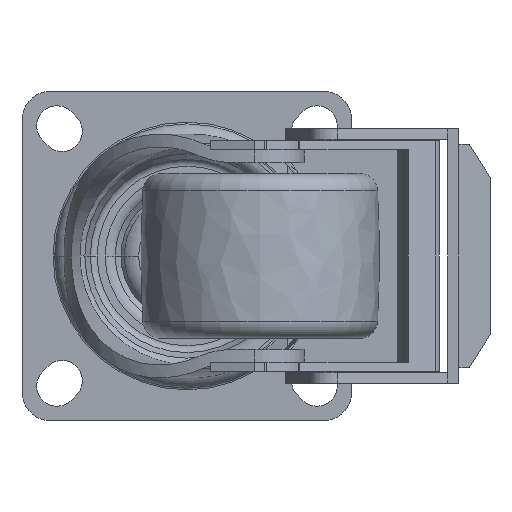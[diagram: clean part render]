
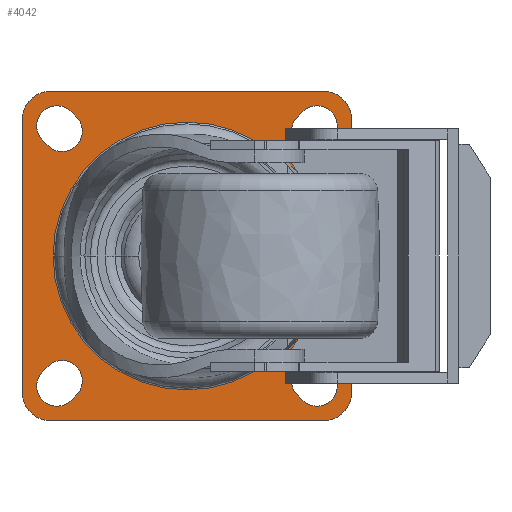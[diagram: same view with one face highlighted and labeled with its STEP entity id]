
A CAD part, front view. The second image highlights one B-rep face of the part: STEP entity #4042.
In plain terms, the highlighted planar face has unit normal (0, -1, 0).
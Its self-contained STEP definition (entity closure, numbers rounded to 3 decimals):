
#3217=DIRECTION('',(0.,0.,-1.));
#3218=VECTOR('',#3217,74.);
#3219=CARTESIAN_POINT('',(-45.,-3.5,37.));
#3220=LINE('',#3219,#3218);
#3221=CARTESIAN_POINT('',(-37.,-3.5,37.));
#3222=DIRECTION('',(0.,-1.,0.));
#3223=DIRECTION('',(0.,0.,1.));
#3224=AXIS2_PLACEMENT_3D('',#3221,#3222,#3223);
#3226=DIRECTION('',(-1.,0.,0.));
#3227=VECTOR('',#3226,74.);
#3228=CARTESIAN_POINT('',(37.,-3.5,45.));
#3229=LINE('',#3228,#3227);
#3230=CARTESIAN_POINT('',(37.,-3.5,37.));
#3231=DIRECTION('',(0.,-1.,0.));
#3232=DIRECTION('',(1.,0.,0.));
#3233=AXIS2_PLACEMENT_3D('',#3230,#3231,#3232);
#3235=DIRECTION('',(0.,0.,1.));
#3236=VECTOR('',#3235,74.);
#3237=CARTESIAN_POINT('',(45.,-3.5,-37.));
#3238=LINE('',#3237,#3236);
#3239=CARTESIAN_POINT('',(37.,-3.5,-37.));
#3240=DIRECTION('',(0.,-1.,0.));
#3241=DIRECTION('',(0.,0.,-1.));
#3242=AXIS2_PLACEMENT_3D('',#3239,#3240,#3241);
#3244=DIRECTION('',(1.,0.,0.));
#3245=VECTOR('',#3244,74.);
#3246=CARTESIAN_POINT('',(-37.,-3.5,-45.));
#3247=LINE('',#3246,#3245);
#3248=CARTESIAN_POINT('',(-37.,-3.5,-37.));
#3249=DIRECTION('',(0.,-1.,0.));
#3250=DIRECTION('',(-1.,0.,0.));
#3251=AXIS2_PLACEMENT_3D('',#3248,#3249,#3250);
#3253=CARTESIAN_POINT('',(-35.5,-3.5,-35.5));
#3254=DIRECTION('',(0.,-1.,0.));
#3255=DIRECTION('',(-0.707,0.,0.707));
#3256=AXIS2_PLACEMENT_3D('',#3253,#3254,#3255);
#3258=DIRECTION('',(-0.707,0.,-0.707));
#3259=VECTOR('',#3258,2.121);
#3260=CARTESIAN_POINT('',(-30.111,-3.5,-37.889));
#3261=LINE('',#3260,#3259);
#3262=CARTESIAN_POINT('',(-34.,-3.5,-34.));
#3263=DIRECTION('',(0.,-1.,0.));
#3264=DIRECTION('',(0.707,0.,-0.707));
#3265=AXIS2_PLACEMENT_3D('',#3262,#3263,#3264);
#3267=DIRECTION('',(0.707,0.,0.707));
#3268=VECTOR('',#3267,2.121);
#3269=CARTESIAN_POINT('',(-39.389,-3.5,-31.611));
#3270=LINE('',#3269,#3268);
#3271=DIRECTION('',(0.707,0.,-0.707));
#3272=VECTOR('',#3271,2.121);
#3273=CARTESIAN_POINT('',(37.889,-3.5,-30.111));
#3274=LINE('',#3273,#3272);
#3275=CARTESIAN_POINT('',(34.,-3.5,-34.));
#3276=DIRECTION('',(0.,-1.,0.));
#3277=DIRECTION('',(0.707,0.,0.707));
#3278=AXIS2_PLACEMENT_3D('',#3275,#3276,#3277);
#3280=DIRECTION('',(-0.707,0.,0.707));
#3281=VECTOR('',#3280,2.121);
#3282=CARTESIAN_POINT('',(31.611,-3.5,-39.389));
#3283=LINE('',#3282,#3281);
#3284=CARTESIAN_POINT('',(35.5,-3.5,-35.5));
#3285=DIRECTION('',(0.,-1.,0.));
#3286=DIRECTION('',(-0.707,0.,-0.707));
#3287=AXIS2_PLACEMENT_3D('',#3284,#3285,#3286);
#3289=CARTESIAN_POINT('',(35.5,-3.5,35.5));
#3290=DIRECTION('',(0.,-1.,0.));
#3291=DIRECTION('',(0.707,0.,-0.707));
#3292=AXIS2_PLACEMENT_3D('',#3289,#3290,#3291);
#3294=DIRECTION('',(0.707,0.,0.707));
#3295=VECTOR('',#3294,2.121);
#3296=CARTESIAN_POINT('',(30.111,-3.5,37.889));
#3297=LINE('',#3296,#3295);
#3298=CARTESIAN_POINT('',(34.,-3.5,34.));
#3299=DIRECTION('',(0.,-1.,0.));
#3300=DIRECTION('',(-0.707,0.,0.707));
#3301=AXIS2_PLACEMENT_3D('',#3298,#3299,#3300);
#3303=DIRECTION('',(-0.707,0.,-0.707));
#3304=VECTOR('',#3303,2.121);
#3305=CARTESIAN_POINT('',(39.389,-3.5,31.611));
#3306=LINE('',#3305,#3304);
#3307=DIRECTION('',(-0.707,0.,0.707));
#3308=VECTOR('',#3307,2.121);
#3309=CARTESIAN_POINT('',(-37.889,-3.5,30.111));
#3310=LINE('',#3309,#3308);
#3311=CARTESIAN_POINT('',(-34.,-3.5,34.));
#3312=DIRECTION('',(0.,-1.,0.));
#3313=DIRECTION('',(-0.707,0.,-0.707));
#3314=AXIS2_PLACEMENT_3D('',#3311,#3312,#3313);
#3316=DIRECTION('',(0.707,0.,-0.707));
#3317=VECTOR('',#3316,2.121);
#3318=CARTESIAN_POINT('',(-31.611,-3.5,39.389));
#3319=LINE('',#3318,#3317);
#3320=CARTESIAN_POINT('',(-35.5,-3.5,35.5));
#3321=DIRECTION('',(0.,-1.,0.));
#3322=DIRECTION('',(0.707,0.,0.707));
#3323=AXIS2_PLACEMENT_3D('',#3320,#3321,#3322);
#3325=CARTESIAN_POINT('',(0.,-3.5,0.));
#3326=DIRECTION('',(0.,-1.,0.));
#3327=DIRECTION('',(-1.,0.,0.));
#3328=AXIS2_PLACEMENT_3D('',#3325,#3326,#3327);
#3335=CARTESIAN_POINT('',(0.,-3.5,0.));
#3336=DIRECTION('',(0.,1.,0.));
#3337=DIRECTION('',(-1.,0.,0.));
#3338=AXIS2_PLACEMENT_3D('',#3335,#3336,#3337);
#3813=CARTESIAN_POINT('',(-36.527,-3.5,0.));
#3815=VERTEX_POINT('',#3813);
#3845=CARTESIAN_POINT('',(36.527,-3.5,0.));
#3847=VERTEX_POINT('',#3845);
#3877=CARTESIAN_POINT('',(-45.,-3.5,37.));
#3878=CARTESIAN_POINT('',(-45.,-3.5,-37.));
#3879=VERTEX_POINT('',#3877);
#3880=VERTEX_POINT('',#3878);
#3881=CARTESIAN_POINT('',(37.,-3.5,45.));
#3882=CARTESIAN_POINT('',(-37.,-3.5,45.));
#3883=VERTEX_POINT('',#3881);
#3884=VERTEX_POINT('',#3882);
#3885=CARTESIAN_POINT('',(45.,-3.5,-37.));
#3886=CARTESIAN_POINT('',(45.,-3.5,37.));
#3887=VERTEX_POINT('',#3885);
#3888=VERTEX_POINT('',#3886);
#3889=CARTESIAN_POINT('',(-37.,-3.5,-45.));
#3890=CARTESIAN_POINT('',(37.,-3.5,-45.));
#3891=VERTEX_POINT('',#3889);
#3892=VERTEX_POINT('',#3890);
#3909=CARTESIAN_POINT('',(-39.389,-3.5,-31.611));
#3910=CARTESIAN_POINT('',(-31.611,-3.5,-39.389));
#3911=VERTEX_POINT('',#3909);
#3912=VERTEX_POINT('',#3910);
#3913=CARTESIAN_POINT('',(-30.111,-3.5,-37.889));
#3914=VERTEX_POINT('',#3913);
#3915=CARTESIAN_POINT('',(-37.889,-3.5,-30.111));
#3916=VERTEX_POINT('',#3915);
#3917=CARTESIAN_POINT('',(37.889,-3.5,-30.111));
#3918=CARTESIAN_POINT('',(39.389,-3.5,-31.611));
#3919=VERTEX_POINT('',#3917);
#3920=VERTEX_POINT('',#3918);
#3921=CARTESIAN_POINT('',(30.111,-3.5,-37.889));
#3922=VERTEX_POINT('',#3921);
#3923=CARTESIAN_POINT('',(31.611,-3.5,-39.389));
#3924=VERTEX_POINT('',#3923);
#3925=CARTESIAN_POINT('',(39.389,-3.5,31.611));
#3926=CARTESIAN_POINT('',(31.611,-3.5,39.389));
#3927=VERTEX_POINT('',#3925);
#3928=VERTEX_POINT('',#3926);
#3929=CARTESIAN_POINT('',(30.111,-3.5,37.889));
#3930=VERTEX_POINT('',#3929);
#3931=CARTESIAN_POINT('',(37.889,-3.5,30.111));
#3932=VERTEX_POINT('',#3931);
#3933=CARTESIAN_POINT('',(-37.889,-3.5,30.111));
#3934=CARTESIAN_POINT('',(-39.389,-3.5,31.611));
#3935=VERTEX_POINT('',#3933);
#3936=VERTEX_POINT('',#3934);
#3937=CARTESIAN_POINT('',(-30.111,-3.5,37.889));
#3938=VERTEX_POINT('',#3937);
#3939=CARTESIAN_POINT('',(-31.611,-3.5,39.389));
#3940=VERTEX_POINT('',#3939);
#3973=CARTESIAN_POINT('',(0.,-3.5,0.));
#3974=DIRECTION('',(0.,-1.,0.));
#3975=DIRECTION('',(-1.,0.,0.));
#3976=AXIS2_PLACEMENT_3D('',#3973,#3974,#3975);
#3977=PLANE('',#3976);
#3979=ORIENTED_EDGE('',*,*,#3978,.F.);
#3981=ORIENTED_EDGE('',*,*,#3980,.F.);
#3983=ORIENTED_EDGE('',*,*,#3982,.F.);
#3985=ORIENTED_EDGE('',*,*,#3984,.F.);
#3987=ORIENTED_EDGE('',*,*,#3986,.F.);
#3989=ORIENTED_EDGE('',*,*,#3988,.F.);
#3991=ORIENTED_EDGE('',*,*,#3990,.F.);
#3993=ORIENTED_EDGE('',*,*,#3992,.F.);
#3994=EDGE_LOOP('',(#3979,#3981,#3983,#3985,#3987,#3989,#3991,#3993));
#3995=FACE_OUTER_BOUND('',#3994,.F.);
#3997=ORIENTED_EDGE('',*,*,#3996,.T.);
#3999=ORIENTED_EDGE('',*,*,#3998,.F.);
#4000=EDGE_LOOP('',(#3997,#3999));
#4001=FACE_BOUND('',#4000,.F.);
#4003=ORIENTED_EDGE('',*,*,#4002,.T.);
#4005=ORIENTED_EDGE('',*,*,#4004,.F.);
#4007=ORIENTED_EDGE('',*,*,#4006,.T.);
#4009=ORIENTED_EDGE('',*,*,#4008,.F.);
#4010=EDGE_LOOP('',(#4003,#4005,#4007,#4009));
#4011=FACE_BOUND('',#4010,.F.);
#4013=ORIENTED_EDGE('',*,*,#4012,.F.);
#4015=ORIENTED_EDGE('',*,*,#4014,.T.);
#4017=ORIENTED_EDGE('',*,*,#4016,.F.);
#4019=ORIENTED_EDGE('',*,*,#4018,.T.);
#4020=EDGE_LOOP('',(#4013,#4015,#4017,#4019));
#4021=FACE_BOUND('',#4020,.F.);
#4023=ORIENTED_EDGE('',*,*,#4022,.T.);
#4025=ORIENTED_EDGE('',*,*,#4024,.F.);
#4027=ORIENTED_EDGE('',*,*,#4026,.T.);
#4029=ORIENTED_EDGE('',*,*,#4028,.F.);
#4030=EDGE_LOOP('',(#4023,#4025,#4027,#4029));
#4031=FACE_BOUND('',#4030,.F.);
#4033=ORIENTED_EDGE('',*,*,#4032,.F.);
#4035=ORIENTED_EDGE('',*,*,#4034,.T.);
#4037=ORIENTED_EDGE('',*,*,#4036,.F.);
#4039=ORIENTED_EDGE('',*,*,#4038,.T.);
#4040=EDGE_LOOP('',(#4033,#4035,#4037,#4039));
#4041=FACE_BOUND('',#4040,.F.);
#3225=CIRCLE('',#3224,8.);
#3234=CIRCLE('',#3233,8.);
#3243=CIRCLE('',#3242,8.);
#3252=CIRCLE('',#3251,8.);
#3257=CIRCLE('',#3256,5.5);
#3266=CIRCLE('',#3265,5.5);
#3279=CIRCLE('',#3278,5.5);
#3288=CIRCLE('',#3287,5.5);
#3293=CIRCLE('',#3292,5.5);
#3302=CIRCLE('',#3301,5.5);
#3315=CIRCLE('',#3314,5.5);
#3324=CIRCLE('',#3323,5.5);
#3329=CIRCLE('',#3328,36.527);
#3339=CIRCLE('',#3338,36.527);
#3978=EDGE_CURVE('',#3879,#3880,#3220,.T.);
#3980=EDGE_CURVE('',#3884,#3879,#3225,.T.);
#3982=EDGE_CURVE('',#3883,#3884,#3229,.T.);
#3984=EDGE_CURVE('',#3888,#3883,#3234,.T.);
#3986=EDGE_CURVE('',#3887,#3888,#3238,.T.);
#3988=EDGE_CURVE('',#3892,#3887,#3243,.T.);
#3990=EDGE_CURVE('',#3891,#3892,#3247,.T.);
#3992=EDGE_CURVE('',#3880,#3891,#3252,.T.);
#3996=EDGE_CURVE('',#3815,#3847,#3329,.T.);
#3998=EDGE_CURVE('',#3815,#3847,#3339,.T.);
#4002=EDGE_CURVE('',#3911,#3912,#3257,.T.);
#4004=EDGE_CURVE('',#3914,#3912,#3261,.T.);
#4006=EDGE_CURVE('',#3914,#3916,#3266,.T.);
#4008=EDGE_CURVE('',#3911,#3916,#3270,.T.);
#4012=EDGE_CURVE('',#3919,#3920,#3274,.T.);
#4014=EDGE_CURVE('',#3919,#3922,#3279,.T.);
#4016=EDGE_CURVE('',#3924,#3922,#3283,.T.);
#4018=EDGE_CURVE('',#3924,#3920,#3288,.T.);
#4022=EDGE_CURVE('',#3927,#3928,#3293,.T.);
#4024=EDGE_CURVE('',#3930,#3928,#3297,.T.);
#4026=EDGE_CURVE('',#3930,#3932,#3302,.T.);
#4028=EDGE_CURVE('',#3927,#3932,#3306,.T.);
#4032=EDGE_CURVE('',#3935,#3936,#3310,.T.);
#4034=EDGE_CURVE('',#3935,#3938,#3315,.T.);
#4036=EDGE_CURVE('',#3940,#3938,#3319,.T.);
#4038=EDGE_CURVE('',#3940,#3936,#3324,.T.);
#4042=ADVANCED_FACE('',(#3995,#4001,#4011,#4021,#4031,#4041),#3977,.T.);
